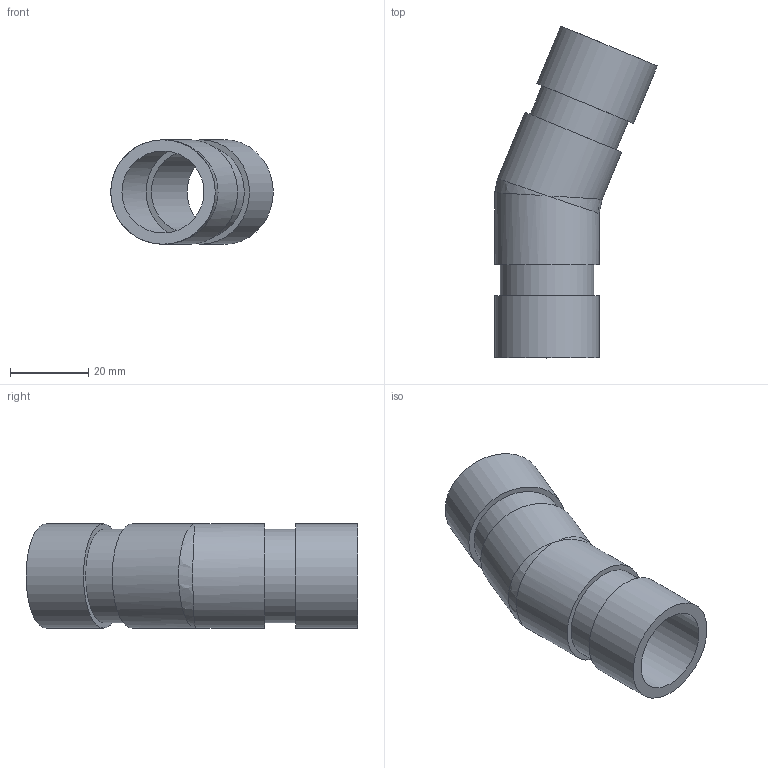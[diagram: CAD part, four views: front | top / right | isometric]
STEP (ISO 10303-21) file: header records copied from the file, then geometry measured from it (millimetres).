
FILE_DESCRIPTION(/* description */ ('VIC ELBOW 22 1/2 DEG No 12 (OGS)','CAx-IF Rec.Pracs.---Representation and Presentation of Product Manufacturing Information (PMI)---4.0---2014-10-13'),/* implementation_level */ '2;1');
FILE_NAME(/* name */ 'C:\Users\Vjadhav\Desktop\CAD for Inventor\1\12\STEP\Victaulic_IPS_Elbow 22.5 Deg_No 12 (OGS)\Victaulic_IPS_Elbow 22.5 Deg_No 12 (OGS)_0.75 (20).stp',/* time_stamp */ '2021-12-22T09:19:57+06:00',/* author */ ('CONSTRUCTION PIPING SERVICES'),/* organization */ ('Victaulic'),/* preprocessor_version */ 'ST-DEVELOPER v17.2',/* originating_system */ 'Autodesk Inventor 2019',/* authorisation */ '');
FILE_SCHEMA (('AP242_MANAGED_MODEL_BASED_3D_ENGINEERING_MIM_LF { 1 0 10303 442 1 1 4 }'));
Length unit declared in the file: inch
Products named in the file (1): 012-0.75
Bounding box: 41.5 x 84.76 x 26.67 mm (x, y, z)
Volume: 12398 mm3; surface area: 13642.4 mm2
Topology: 3 solids, 3 shells, 20 faces, 45 edges, 29 vertices
Faces by surface type: cylinder 10, plane 8, bspline 2
Full cylindrical faces by diameter (mm): 20.93 x2, 23.825 x4, 26.67 x4
Entity records: 790 total; most frequent: CARTESIAN_POINT 186, DIRECTION 136, ORIENTED_EDGE 82, AXIS2_PLACEMENT_3D 63, EDGE_CURVE 41, VERTEX_POINT 29, EDGE_LOOP 28, STYLED_ITEM 24
